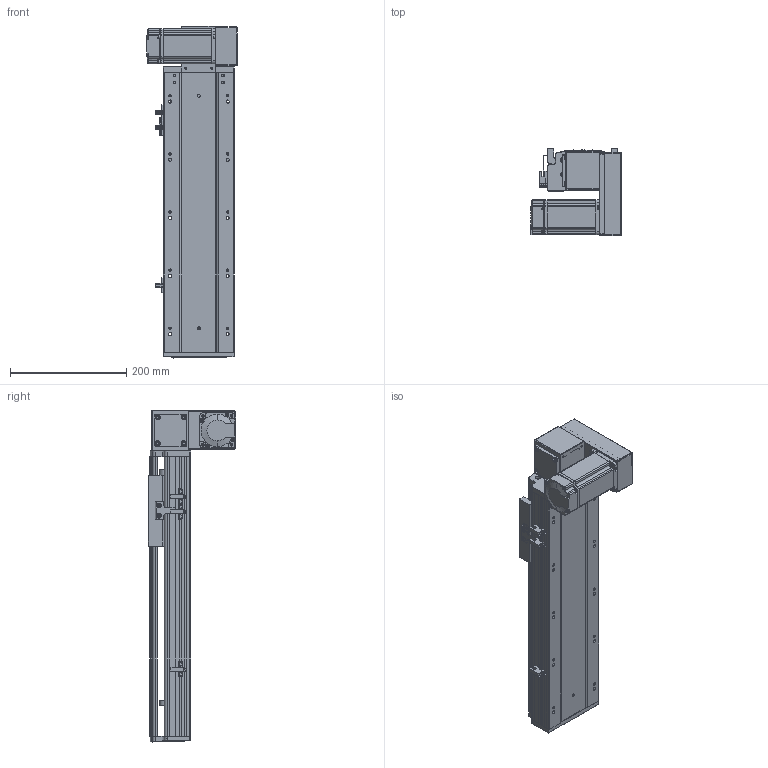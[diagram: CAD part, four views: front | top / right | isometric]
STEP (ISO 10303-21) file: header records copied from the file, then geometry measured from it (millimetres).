
FILE_DESCRIPTION (( 'STEP AP203' ), '1' );
FILE_NAME ('RY120-T-300-DR.SLDASM_250.step', '2021-03-01T03:34:34', ( '盈信电脑' ), ( '东莞市道滘镇水果街19号' ), 'SwSTEP 2.0', 'SolidWorks 2012', '' );
FILE_SCHEMA (( 'CONFIG_CONTROL_DESIGN' ));
Products named in the file (17): RY120-T主同步轮轴承压盖; RY120-T萇儂欶; RY120-T-300-DR.SLDASM_250; RY120-T萇儂假蚾啣; RY120-T蹟翐M4; 滅袉蝶18-10; RY120-T翋肮祭謫裔啣; RY120-T翋肮祭盓傅釱; 15; RY120-T肮祭湍揤踡輸1; RY120-T肮祭湍揤踡輸2; RY120外置感应片(140共用）; 覜茼ん672; RY120綴裔啣; RY120肮祭湍臏賑輸; RY120-T-300-DR倰第奻裔啣_250; RY120-T-300-DR倰第菁釱_250
Assembly tree (22 placements, depth 2):
  RY120-T-300-DR.SLDASM_250
    RY120-T-300-DR倰第菁釱_250
    RY120-T-300-DR倰第奻裔啣_250
    RY120肮祭湍臏賑輸
    RY120綴裔啣
    覜茼ん672  x3
    RY120外置感应片(140共用）
    RY120-T肮祭湍揤踡輸1
    RY120-T肮祭湍揤踡輸2
    RY120-T翋肮祭盓傅釱
    滅袉蝶18-10  x2
    RY120-T翋肮祭謫裔啣
    15
    RY120-T萇儂假蚾啣
    RY120-T蹟翐M4  x4
    RY120-T萇儂欶
    RY120-T主同步轮轴承压盖
Bounding box: 155.5 x 150 x 571 mm (x, y, z)
Volume: 1973902.2 mm3; surface area: 700092.8 mm2
Topology: 23 solids, 23 shells, 2636 faces, 7168 edges, 4622 vertices
Faces by surface type: plane 1396, cylinder 954, cone 197, bspline 89
Entity records: 83221 total; most frequent: CARTESIAN_POINT 20732, ORIENTED_EDGE 12856, DIRECTION 12182, EDGE_CURVE 6428, VERTEX_POINT 4209, LINE 4120, VECTOR 4120, AXIS2_PLACEMENT_3D 4031
